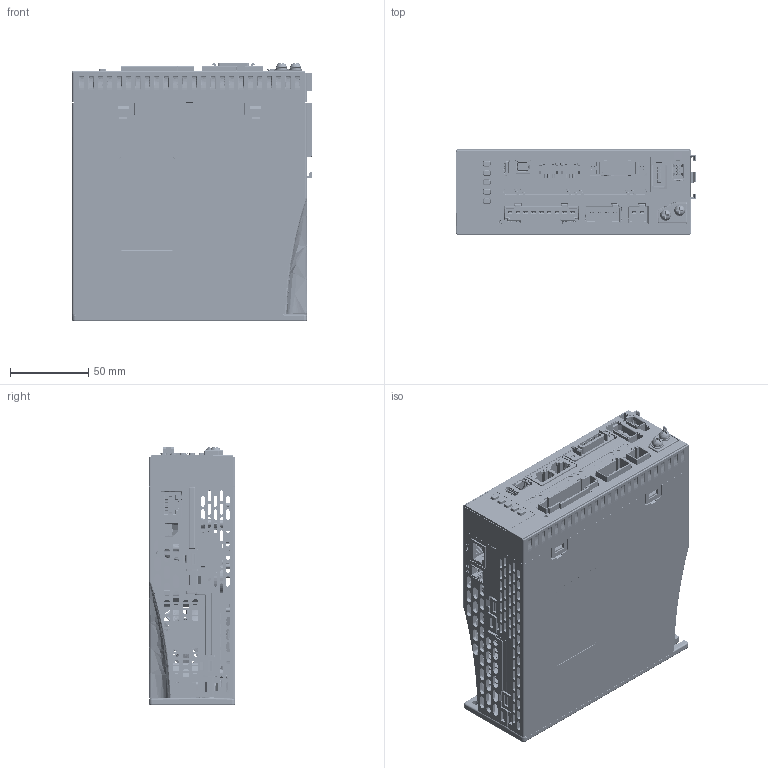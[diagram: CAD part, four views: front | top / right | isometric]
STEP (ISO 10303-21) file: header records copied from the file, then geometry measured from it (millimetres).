
FILE_DESCRIPTION((''),'2;1');
FILE_NAME('00-L8-750-ALL_ASM','2022-07-07T17:36:03',('Administrator'),(''),'CREO PARAMETRIC BY PTC INC, 2019224','CREO PARAMETRIC BY PTC INC, 2019224','');
FILE_SCHEMA(('CONFIG_CONTROL_DESIGN','GEOMETRIC_VALIDATION_PROPERTIES_MIM'));
Products named in the file (39): PCB_L8D1; CN-5-0-1X9-47-2X18-1; CN-5-0-1X4-26-2X18-1; CN-5-0-1X2-16-2X18-1; DB201S-HY; STGIB20M60TS-L; 0805LED; PCB_L8D1_ASM; PCB_L8D2; USB-J-TP16-3U10; MINI-IO-0-635-TYPE1; CON24-RJ45-2-54; SC-MCR26S90; SC-MCR10S90; 1394-6P; C-RJ10; 00000; PCB_L8D2_ASM; KEY-PCB; L8-PCB-750-ALL_ASM; L8-750-TOP; L8-750-BOT; L8-750-FRONT; L8-400-YKL; L8-400-KEY-CAP; COOLING-FIN; FANS-COVER; AIR-DUCT; I8-750-0706; L8-750-BODY_ASM; SCDZ-750; M4X10_GB818_1; D4_GB9074_26_1; D4_GB9074_24_1; M4X10_GB9074_4_ASM; FAN; L8-750-ALL_ASM; PRT0001; 00-L8-750-ALL_ASM
Assembly tree (40 placements, depth 5):
  00-L8-750-ALL_ASM
    L8-750-ALL_ASM
      L8-PCB-750-ALL_ASM
        PCB_L8D1_ASM
          PCB_L8D1
          CN-5-0-1X9-47-2X18-1
          CN-5-0-1X4-26-2X18-1
          CN-5-0-1X2-16-2X18-1
          DB201S-HY
          STGIB20M60TS-L
          0805LED
        PCB_L8D2_ASM
          PCB_L8D2
          USB-J-TP16-3U10
          MINI-IO-0-635-TYPE1
          CON24-RJ45-2-54
          SC-MCR26S90
          SC-MCR10S90
          1394-6P
          C-RJ10
          00000
        KEY-PCB
      L8-750-BODY_ASM
        L8-750-TOP
        L8-750-BOT
        L8-750-FRONT
        L8-400-YKL
        L8-400-KEY-CAP
        COOLING-FIN
        FANS-COVER
        AIR-DUCT
        I8-750-0706
      SCDZ-750
      M4X10_GB9074_4_ASM  x2
        M4X10_GB818_1
        D4_GB9074_26_1
        D4_GB9074_24_1
      FAN
    FAN
    PRT0001
Bounding box: 153.2 x 55 x 165.53 mm (x, y, z)
Volume: 491063.5 mm3; surface area: 454671.8 mm2
Topology: 37 solids, 107 shells, 13720 faces, 36763 edges, 23268 vertices
Faces by surface type: plane 8553, cylinder 3037, bspline 1320, cone 310, torus 238, sphere 203, extrusion 57, revolution 2
Entity records: 607860 total; most frequent: CARTESIAN_POINT 154789, ORIENTED_EDGE 71466, DIRECTION 62291, EDGE_CURVE 35733, PRESENTATION_STYLE_ASSIGNMENT 31674, STYLED_ITEM 30011, CURVE_STYLE 26445, VECTOR 25843
